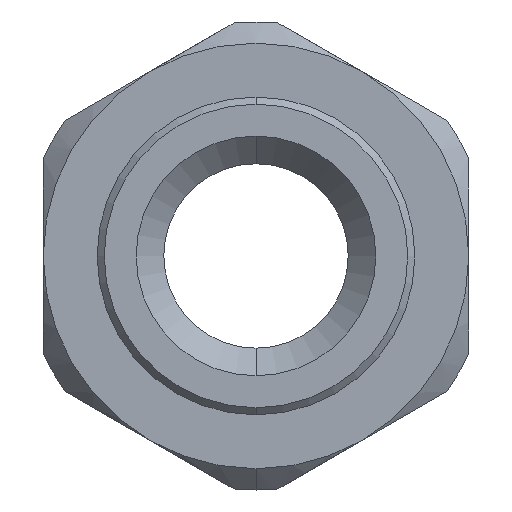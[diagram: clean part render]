
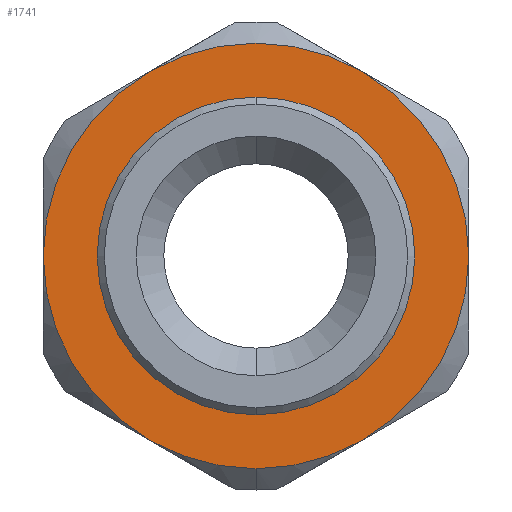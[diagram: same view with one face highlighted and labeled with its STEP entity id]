
A CAD part, front view. The second image highlights one B-rep face of the part: STEP entity #1741.
In plain terms, the highlighted planar face has unit normal (0, -1, 0).
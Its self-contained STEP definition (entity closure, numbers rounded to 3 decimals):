
#37 = AXIS2_PLACEMENT_3D ( 'NONE', #1479, #1478, #1477 ) ;
#40 = AXIS2_PLACEMENT_3D ( 'NONE', #609, #596, #595 ) ;
#50 = AXIS2_PLACEMENT_3D ( 'NONE', #1500, #1487, #1486 ) ;
#56 = AXIS2_PLACEMENT_3D ( 'NONE', #1465, #1464, #1463 ) ;
#98 = AXIS2_PLACEMENT_3D ( 'NONE', #1476, #1475, #1474 ) ;
#115 = AXIS2_PLACEMENT_3D ( 'NONE', #1482, #1481, #1480 ) ;
#122 = AXIS2_PLACEMENT_3D ( 'NONE', #815, #808, #807 ) ;
#140 = AXIS2_PLACEMENT_3D ( 'NONE', #1462, #1461, #1460 ) ;
#263 = AXIS2_PLACEMENT_3D ( 'NONE', #1073, #1072, #1071 ) ;
#267 = FACE_OUTER_BOUND ( 'NONE', #2313, .T. ) ;
#270 = FACE_BOUND ( 'NONE', #2306, .T. ) ;
#358 = AXIS2_PLACEMENT_3D ( 'NONE', #1248, #1247, #1246 ) ;
#391 = EDGE_CURVE ( 'NONE', #1997, #1976, #1680, .T. ) ;
#393 = EDGE_CURVE ( 'NONE', #1915, #2013, #1678, .T. ) ;
#394 = EDGE_CURVE ( 'NONE', #1943, #1915, #1677, .T. ) ;
#395 = EDGE_CURVE ( 'NONE', #2001, #1943, #1676, .T. ) ;
#397 = EDGE_CURVE ( 'NONE', #1941, #1922, #1675, .T. ) ;
#398 = EDGE_CURVE ( 'NONE', #1984, #1941, #1674, .T. ) ;
#501 = CARTESIAN_POINT ( 'NONE',  ( -15., 1., 0. ) ) ;
#503 = CARTESIAN_POINT ( 'NONE',  ( 15., 1., 0. ) ) ;
#522 = CARTESIAN_POINT ( 'NONE',  ( 7.5, 1., 12.99 ) ) ;
#529 = CARTESIAN_POINT ( 'NONE',  ( -7.5, 1., -12.99 ) ) ;
#595 = DIRECTION ( 'NONE',  ( 0., 0., -1. ) ) ;
#596 = DIRECTION ( 'NONE',  ( 0., -1., 0. ) ) ;
#609 = CARTESIAN_POINT ( 'NONE',  ( 0., 1., 0. ) ) ;
#807 = DIRECTION ( 'NONE',  ( 0., 0., -1. ) ) ;
#808 = DIRECTION ( 'NONE',  ( 0., -1., 0. ) ) ;
#815 = CARTESIAN_POINT ( 'NONE',  ( 0., 1., 0. ) ) ;
#866 = CARTESIAN_POINT ( 'NONE',  ( 0., 1., -15. ) ) ;
#891 = CARTESIAN_POINT ( 'NONE',  ( -7.5, 1., 12.99 ) ) ;
#895 = CARTESIAN_POINT ( 'NONE',  ( 0., 1., 11.2 ) ) ;
#908 = CARTESIAN_POINT ( 'NONE',  ( 7.5, 1., -12.99 ) ) ;
#950 = CARTESIAN_POINT ( 'NONE',  ( 0., 1., -11.2 ) ) ;
#1071 = DIRECTION ( 'NONE',  ( 0., 0., 1. ) ) ;
#1072 = DIRECTION ( 'NONE',  ( 0., 1., 0. ) ) ;
#1073 = CARTESIAN_POINT ( 'NONE',  ( -16.5, 1., 0. ) ) ;
#1074 = PLANE ( 'NONE',  #263 ) ;
#1246 = DIRECTION ( 'NONE',  ( 0., 0., -1. ) ) ;
#1247 = DIRECTION ( 'NONE',  ( 0., -1., 0. ) ) ;
#1248 = CARTESIAN_POINT ( 'NONE',  ( 0., 1., 0. ) ) ;
#1460 = DIRECTION ( 'NONE',  ( 0., 0., -1. ) ) ;
#1461 = DIRECTION ( 'NONE',  ( 0., -1., 0. ) ) ;
#1462 = CARTESIAN_POINT ( 'NONE',  ( 0., 1., 0. ) ) ;
#1463 = DIRECTION ( 'NONE',  ( 0., 0., -1. ) ) ;
#1464 = DIRECTION ( 'NONE',  ( 0., -1., 0. ) ) ;
#1465 = CARTESIAN_POINT ( 'NONE',  ( 0., 1., 0. ) ) ;
#1474 = DIRECTION ( 'NONE',  ( 0., 0., -1. ) ) ;
#1475 = DIRECTION ( 'NONE',  ( 0., -1., 0. ) ) ;
#1476 = CARTESIAN_POINT ( 'NONE',  ( 0., 1., 0. ) ) ;
#1477 = DIRECTION ( 'NONE',  ( 0., 0., -1. ) ) ;
#1478 = DIRECTION ( 'NONE',  ( 0., -1., 0. ) ) ;
#1479 = CARTESIAN_POINT ( 'NONE',  ( 0., 1., 0. ) ) ;
#1480 = DIRECTION ( 'NONE',  ( 0., 0., -1. ) ) ;
#1481 = DIRECTION ( 'NONE',  ( 0., -1., 0. ) ) ;
#1482 = CARTESIAN_POINT ( 'NONE',  ( 0., 1., 0. ) ) ;
#1486 = DIRECTION ( 'NONE',  ( 0., 0., -1. ) ) ;
#1487 = DIRECTION ( 'NONE',  ( 0., -1., 0. ) ) ;
#1500 = CARTESIAN_POINT ( 'NONE',  ( 0., 1., 0. ) ) ;
#1588 = CIRCLE ( 'NONE', #40, 15. ) ;
#1614 = CIRCLE ( 'NONE', #122, 11.2 ) ;
#1646 = CIRCLE ( 'NONE', #358, 15. ) ;
#1674 = CIRCLE ( 'NONE', #140, 15. ) ;
#1675 = CIRCLE ( 'NONE', #56, 15. ) ;
#1676 = CIRCLE ( 'NONE', #98, 15. ) ;
#1677 = CIRCLE ( 'NONE', #37, 15. ) ;
#1678 = CIRCLE ( 'NONE', #115, 15. ) ;
#1680 = CIRCLE ( 'NONE', #50, 11.2 ) ;
#1693 = EDGE_CURVE ( 'NONE', #2013, #1984, #1646, .T. ) ;
#1741 = ADVANCED_FACE ( 'NONE', ( #270, #267 ), #1074, .F. ) ;
#1804 = EDGE_CURVE ( 'NONE', #1976, #1997, #1614, .T. ) ;
#1874 = EDGE_CURVE ( 'NONE', #1922, #2001, #1588, .T. ) ;
#1915 = VERTEX_POINT ( 'NONE', #529 ) ;
#1922 = VERTEX_POINT ( 'NONE', #522 ) ;
#1941 = VERTEX_POINT ( 'NONE', #503 ) ;
#1943 = VERTEX_POINT ( 'NONE', #501 ) ;
#1976 = VERTEX_POINT ( 'NONE', #950 ) ;
#1984 = VERTEX_POINT ( 'NONE', #908 ) ;
#1997 = VERTEX_POINT ( 'NONE', #895 ) ;
#2001 = VERTEX_POINT ( 'NONE', #891 ) ;
#2013 = VERTEX_POINT ( 'NONE', #866 ) ;
#2180 = ORIENTED_EDGE ( 'NONE', *, *, #397, .T. ) ;
#2182 = ORIENTED_EDGE ( 'NONE', *, *, #395, .T. ) ;
#2183 = ORIENTED_EDGE ( 'NONE', *, *, #391, .F. ) ;
#2184 = ORIENTED_EDGE ( 'NONE', *, *, #1874, .T. ) ;
#2185 = ORIENTED_EDGE ( 'NONE', *, *, #394, .T. ) ;
#2186 = ORIENTED_EDGE ( 'NONE', *, *, #393, .T. ) ;
#2187 = ORIENTED_EDGE ( 'NONE', *, *, #398, .T. ) ;
#2189 = ORIENTED_EDGE ( 'NONE', *, *, #1693, .T. ) ;
#2306 = EDGE_LOOP ( 'NONE', ( #2427, #2183 ) ) ;
#2313 = EDGE_LOOP ( 'NONE', ( #2180, #2184, #2182, #2185, #2186, #2189, #2187 ) ) ;
#2427 = ORIENTED_EDGE ( 'NONE', *, *, #1804, .F. ) ;
